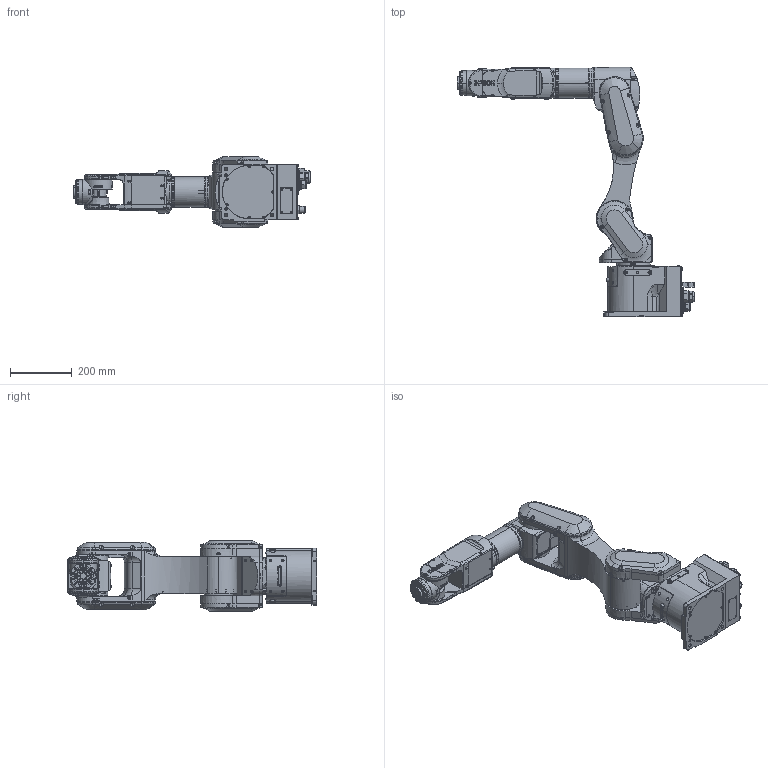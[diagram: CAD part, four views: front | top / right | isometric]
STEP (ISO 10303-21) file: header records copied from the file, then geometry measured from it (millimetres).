
FILE_DESCRIPTION (( 'STEP AP214' ), '1' );
FILE_NAME ('CX7-x901CN.STEP', '2026-07-27T20:14:44', ( '' ), ( '' ), 'SwSTEP 2.0', 'SolidWorks 2020', '' );
FILE_SCHEMA (( 'AUTOMOTIVE_DESIGN' ));
Length unit declared in the file: millimetre
Products named in the file (8): CX7-A901C-NIW_J5; CX7-A901C-NIW_J4; CX7-x901CN; CX7-A901C-NIW_BASE; CX7-A901C-NIW_J1; CX7-A901C-NIW_J2; CX7-A901C-NIW_J3; CX7-A901C-NIW_J6
Assembly tree (7 placements, depth 2):
  CX7-x901CN
    CX7-A901C-NIW_BASE
    CX7-A901C-NIW_J1
    CX7-A901C-NIW_J2
    CX7-A901C-NIW_J3
    CX7-A901C-NIW_J4
    CX7-A901C-NIW_J5
    CX7-A901C-NIW_J6
Bounding box: 772 x 812 x 228 mm (x, y, z)
Volume: 8767022.2 mm3; surface area: 1184893.9 mm2
Topology: 4 solids, 9 shells, 3618 faces, 8967 edges, 5533 vertices
Faces by surface type: plane 1217, cylinder 1180, cone 750, torus 357, sphere 69, bspline 45
Entity records: 164689 total; most frequent: CARTESIAN_POINT 71876, ORIENTED_EDGE 17616, DIRECTION 12157, EDGE_CURVE 8817, B_SPLINE_CURVE_WITH_KNOTS 5562, VERTEX_POINT 5533, AXIS2_PLACEMENT_3D 5339, EDGE_LOOP 3962
